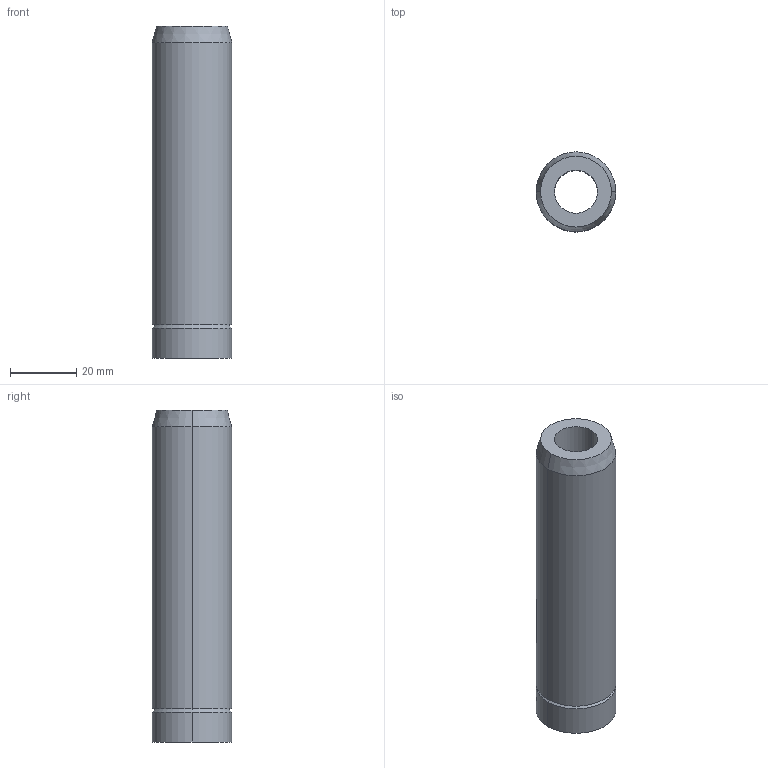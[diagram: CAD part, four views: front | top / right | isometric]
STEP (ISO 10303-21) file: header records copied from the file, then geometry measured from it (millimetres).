
FILE_DESCRIPTION(/* description */ (''),/* implementation_level */ '2;1');
FILE_NAME(/* name */ '3d_s22-100_07094_r00.stp',/* time_stamp */ '2011-01-10T14:11:30+09:00',/* author */ ('MISUMI'),/* organization */ (''),/* preprocessor_version */ 'ST-DEVELOPER v11',/* originating_system */ 'UGS - NX 5.0',/* authorisation */ '');
FILE_SCHEMA (('CONFIG_CONTROL_DESIGN'));
Length unit declared in the file: millimetre
Products named in the file (1): 3d_s22-100_07094_r00
Bounding box: 24 x 24 x 100 mm (x, y, z)
Volume: 31685.9 mm3; surface area: 12258.4 mm2
Topology: 1 solids, 1 shells, 13 faces, 26 edges, 16 vertices
Faces by surface type: cylinder 6, cone 4, plane 3
Entity records: 434 total; most frequent: DIRECTION 70, CARTESIAN_POINT 56, ORIENTED_EDGE 52, AXIS2_PLACEMENT_3D 30, EDGE_CURVE 26, EDGE_LOOP 16, CIRCLE 16, VERTEX_POINT 16
